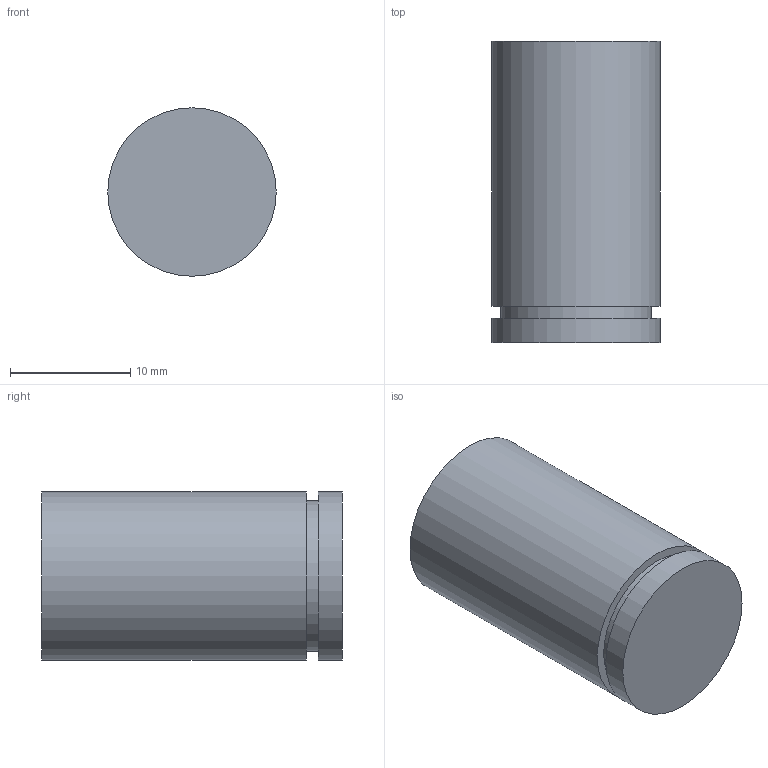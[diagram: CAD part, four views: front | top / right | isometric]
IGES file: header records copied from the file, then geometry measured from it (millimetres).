
Start section: Data from Parasolid IGES Translator 15.0.47, Copyright(c) 2006 Siemens P LM Software. All Rights Reserved.
Global section: file name: 9070957.igs; native system:  By UGS Corp.; preprocessor: XPlus GENERIC/IGES 3.0; author: Noname; organization: Noname; date: 20140122.174553; units: millimetre
Bounding box: 14 x 25 x 14 mm (x, y, z)
Surface area: 1590.8 mm2 (no closed solid volume)
Topology: 0 solids, 0 shells, 9 faces, 24 edges, 16 vertices
Faces by surface type: extrusion 5, revolution 4
